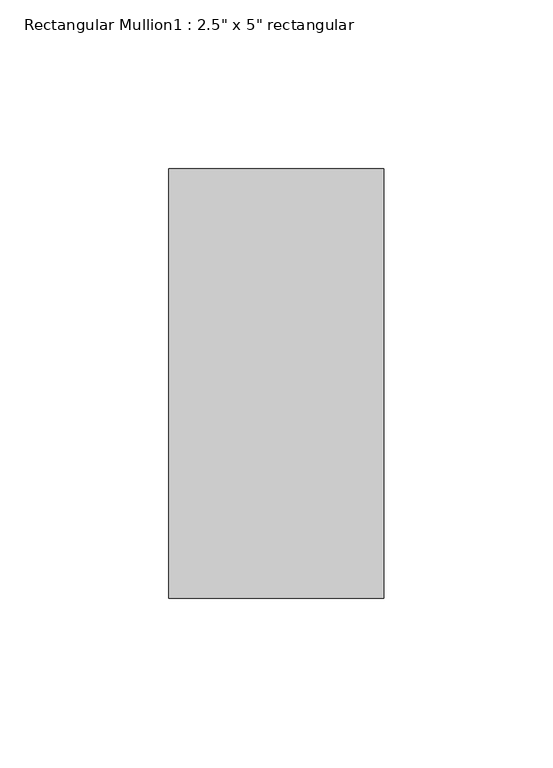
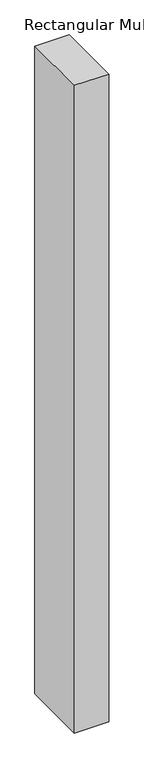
"""IFC4 building model written with IfcOpenShell, lengths in millimetres: member geometry."""

from ifc_helpers import new_model, si_unit, frame, origin, place, context, project, spatial, polyline, outline, extrude, source, transform, mapped, element, save


def member_c86c7f77(model_context):
    return source(origin(), model_context, "Body", "SweptSolid", [
        extrude(outline(polyline([(31.75, 63.5), (31.75, -63.5), (-31.75, -63.5), (-31.75, 63.5), (31.75, 63.5)])), frame((0.0, 0.0, -1270.9989637), z_axis=(0.0, 0.0, 1.0), x_axis=(1.0, 0.0, 0.0)), (0.0, 0.0, 1.0), 1270.9989637),
    ])


if __name__ == "__main__":
    model = new_model("IFC4")
    model_context = context("Model", 3, world=origin())
    ifc_project = project(units=[si_unit("LENGTHUNIT", "METRE", prefix="MILLI")], contexts=[model_context])
    site = spatial("IfcSite", under=ifc_project)
    building = spatial("IfcBuilding", under=site)
    placement = place(None, origin())
    member_shape = member_c86c7f77(model_context)
    element("IfcMember", 1, ObjectType="Rectangular Mullion1 : 2.5\" x 5\" rectangular", at=placement, inside=building, context=model_context, shape_type="MappedRepresentation", body=[
        mapped(member_shape, transform((0.0, 0.0, 0.0), x_axis=(1.0, 0.0, 0.0), y_axis=(0.0, 1.0, 0.0), z_axis=(0.0, 0.0, 1.0))),
    ])
    save(model, "model.ifc")
